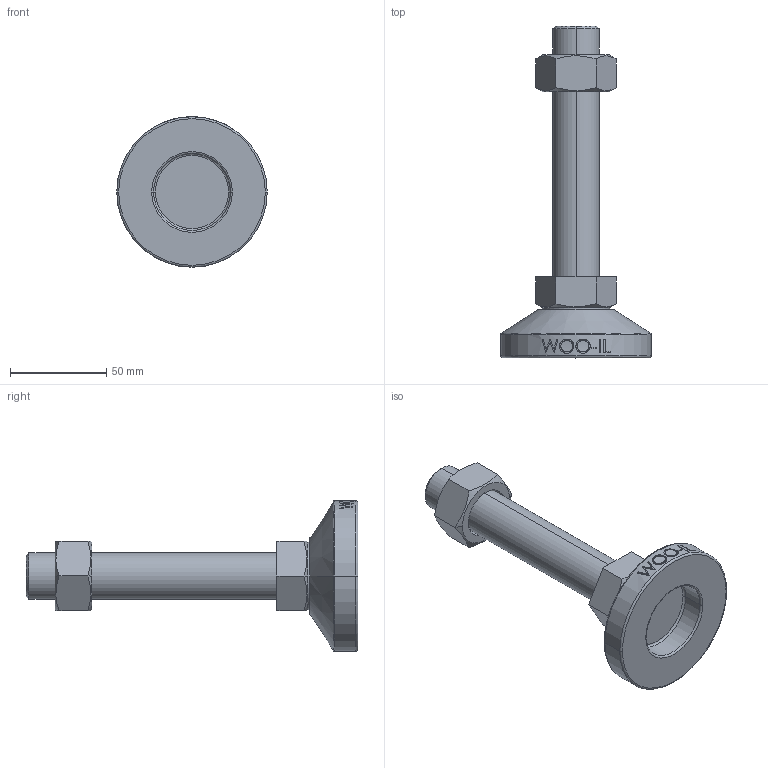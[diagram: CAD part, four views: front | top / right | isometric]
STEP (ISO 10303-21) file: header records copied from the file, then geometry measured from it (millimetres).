
FILE_DESCRIPTION (( 'STEP AP214' ), '1' );
FILE_NAME ('MF78-M24-130.step', '2021-02-03T08:22:17', ( '' ), ( '' ), 'SwSTEP 2.0', 'SolidWorks 2019', '' );
FILE_SCHEMA (( 'AUTOMOTIVE_DESIGN' ));
Length unit declared in the file: millimetre
Products named in the file (2): MF78-M24-130
Bounding box: 78 x 172 x 78 mm (x, y, z)
Volume: 168914.5 mm3; surface area: 33516.5 mm2
Topology: 3 solids, 3 shells, 106 faces, 243 edges, 154 vertices
Faces by surface type: plane 48, cylinder 18, bspline 16, cone 14, torus 10
Entity records: 4556 total; most frequent: CARTESIAN_POINT 2213, ORIENTED_EDGE 486, DIRECTION 439, EDGE_CURVE 243, AXIS2_PLACEMENT_3D 170, VERTEX_POINT 154, EDGE_LOOP 119, ADVANCED_FACE 106
